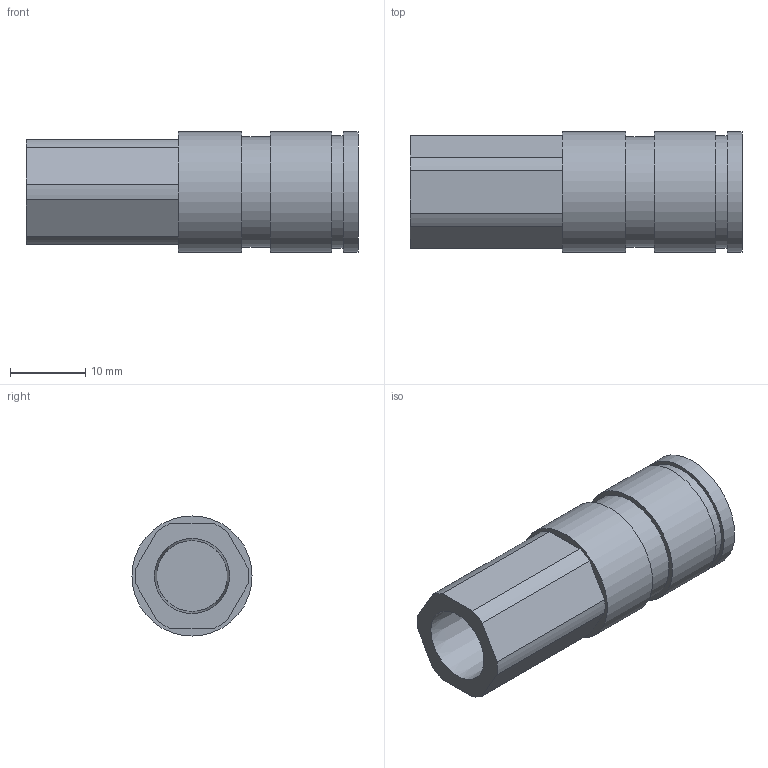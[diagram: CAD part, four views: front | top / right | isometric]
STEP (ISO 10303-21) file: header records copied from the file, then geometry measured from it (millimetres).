
FILE_DESCRIPTION((''),'2;1');
FILE_NAME('Z:\客先\あ行\アオイ\99_その他\3D_DATA\CPR_Series\2CPR-SSV-RC\STEP\203\CPR-SSV-RC1-8.ipt.stp','2008-07-01T11:29:19',(''),(''),'Autodesk Inventor 2009','Autodesk Inventor 2009','');
FILE_SCHEMA(('CONFIG_CONTROL_DESIGN'));
Length unit declared in the file: millimetre
Products named in the file (1): CPR-SSV-RC1-8
Bounding box: 44.2 x 16 x 16 mm (x, y, z)
Volume: 6233.8 mm3; surface area: 3404.5 mm2
Topology: 1 solids, 1 shells, 28 faces, 57 edges, 38 vertices
Faces by surface type: plane 15, cylinder 12, cone 1
Full cylindrical faces by diameter (mm): 9.1 x1, 14.7 x1, 15 x1, 16 x3
Entity records: 729 total; most frequent: DIRECTION 134, CARTESIAN_POINT 117, ORIENTED_EDGE 100, AXIS2_PLACEMENT_3D 55, EDGE_CURVE 50, EDGE_LOOP 42, VERTEX_POINT 38, FACE_OUTER_BOUND 28
